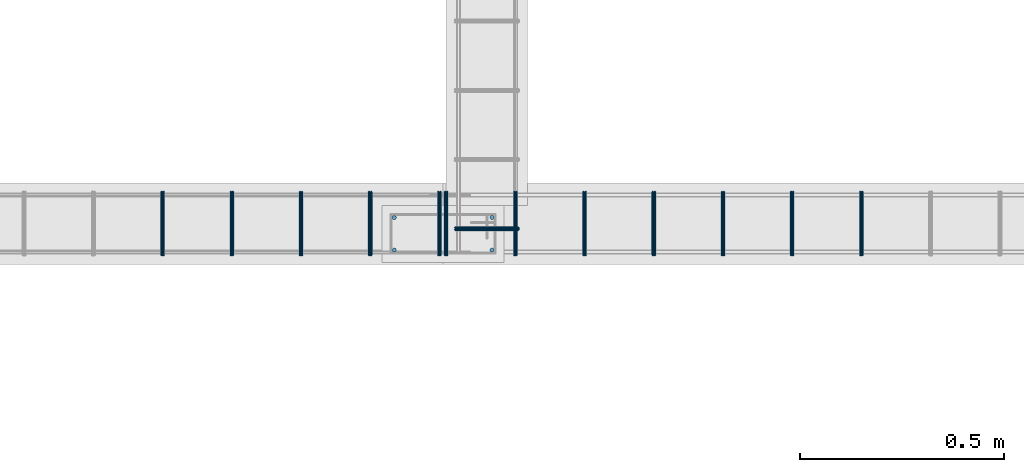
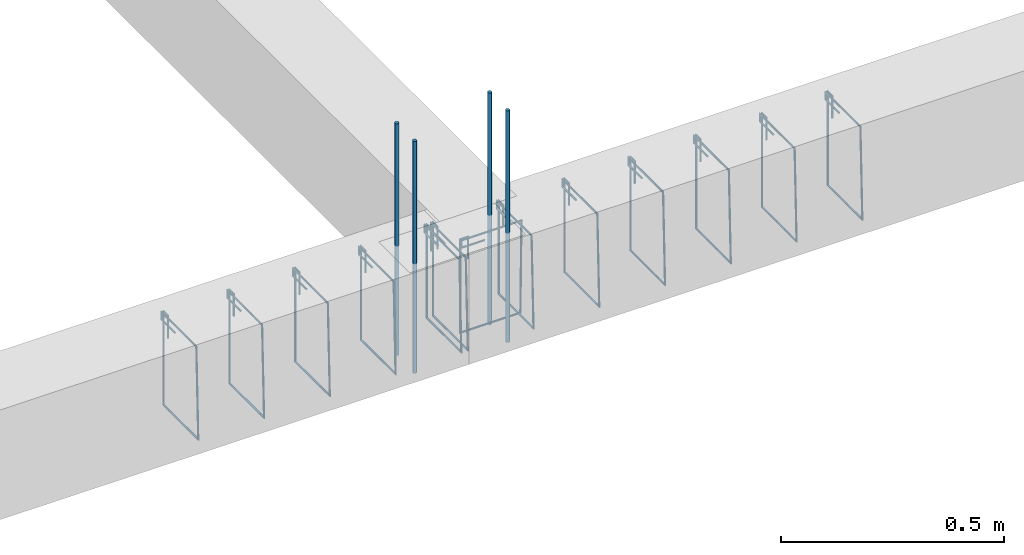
# One storey, part 69 of 150: 17 reinforcing bars.
"""IFC4 building model written with IfcOpenShell, lengths in centimetres."""

from ifc_helpers import new_model, entity, si_unit, derived_unit, frame, origin_with_axes, place, context, project, spatial, source, transform, mapped, element, save


model = new_model("IFC4")

# Units and contexts
model_context = context("Model", 3, precision=1e-05, world=origin_with_axes(), identifier="Body")
ifc_project = project(units=[si_unit("LENGTHUNIT", "METRE", prefix="CENTI"), si_unit("VOLUMEUNIT", "CUBIC_METRE"), si_unit("AREAUNIT", "SQUARE_METRE"), si_unit("POWERUNIT", "WATT"), si_unit("LUMINOUSFLUXUNIT", "LUMEN"), si_unit("ELECTRICCURRENTUNIT", "AMPERE"), si_unit("PRESSUREUNIT", "PASCAL", prefix="KILO"), si_unit("MASSUNIT", "GRAM", prefix="KILO"), si_unit("PLANEANGLEUNIT", "RADIAN"), derived_unit("VOLUMETRICFLOWRATEUNIT", [(si_unit("LENGTHUNIT", "METRE"), 3), (si_unit("TIMEUNIT", "SECOND"), -1)])], contexts=[model_context])

# Site, building, storey
site_placement = place(None, frame((-4000.0, 0.0, 0.0), z_axis=(0.0, 0.0, 1.0), x_axis=(1.0, 0.0, 0.0)))
site = spatial("IfcSite", under=ifc_project, at=site_placement, Name="PADRÃO")
building_placement = place(site_placement, frame((0.0, 0.0, -14.0)))
building = spatial("IfcBuilding", under=site, at=building_placement, Name="CRECHE PRÉ-ESCOLA TIPO 2")
placement = place(building_placement, origin_with_axes())
storey_placement = place(placement, frame((0.0, 0.0, 30.0), z_axis=(0.0, 0.0, 1.0), x_axis=(1.0, 0.0, 0.0)))
storey = spatial("IfcBuildingStorey", under=building, at=storey_placement, Name="VIGA BALDRAME", CompositionType="ELEMENT", Elevation=16.0)

# Reinforcing bars
shared_shape_1 = source(origin_with_axes(), model_context, "Body", "AdvancedSweptSolid", [
    entity("IfcSweptDiskSolid", entity("IfcCompositeCurve", [entity("IfcCompositeCurveSegment", "CONTINUOUS", True, entity("IfcPolyline", [entity("IfcCartesianPoint", [2.0, -6.0, 0.0]), entity("IfcCartesianPoint", [2.0, 0.0, 0.0])])), entity("IfcCompositeCurveSegment", "CONTINUOUS", True, entity("IfcPolyline", [entity("IfcCartesianPoint", [2.0, 0.0, 0.0]), entity("IfcCartesianPoint", [0.0, 0.0, 0.0])])), entity("IfcCompositeCurveSegment", "CONTINUOUS", True, entity("IfcPolyline", [entity("IfcCartesianPoint", [0.0, 0.0, 0.0]), entity("IfcCartesianPoint", [0.0, -25.5, 0.0])])), entity("IfcCompositeCurveSegment", "CONTINUOUS", True, entity("IfcPolyline", [entity("IfcCartesianPoint", [0.0, -25.5, 0.0]), entity("IfcCartesianPoint", [15.5, -25.5, 0.0])])), entity("IfcCompositeCurveSegment", "CONTINUOUS", True, entity("IfcPolyline", [entity("IfcCartesianPoint", [15.5, -25.5, 0.0]), entity("IfcCartesianPoint", [15.5, 0.0, 0.5])])), entity("IfcCompositeCurveSegment", "CONTINUOUS", True, entity("IfcPolyline", [entity("IfcCartesianPoint", [15.5, 0.0, 0.5]), entity("IfcCartesianPoint", [0.0, 0.0, 0.5])])), entity("IfcCompositeCurveSegment", "CONTINUOUS", True, entity("IfcPolyline", [entity("IfcCartesianPoint", [0.0, 0.0, 0.5]), entity("IfcCartesianPoint", [0.0, -2.0, 0.5])])), entity("IfcCompositeCurveSegment", "CONTINUOUS", True, entity("IfcPolyline", [entity("IfcCartesianPoint", [0.0, -2.0, 0.5]), entity("IfcCartesianPoint", [6.0, -2.0, 0.5])]))], False), 0.25),
])
for number, where, z_axis, x_axis, name in (
    (1, (684.345, 3207.77, -2.25), (-1.0, 0.0, 0.0), (0.0, -1.0, 0.0), "V113 - Estribo"),
    (2, (667.345, 3207.77, -2.25), (-1.0, 0.0, 0.0), (0.0, -1.0, 0.0), "V113 - Estribo"),
    (3, (650.345, 3207.77, -2.25), (-1.0, 0.0, 0.0), (0.0, -1.0, 0.0), "V113 - Estribo"),
    (4, (633.345, 3207.77, -2.25), (-1.0, 0.0, 0.0), (0.0, -1.0, 0.0), "V113 - Estribo"),
    (5, (616.345, 3207.77, -2.25), (-1.0, 0.0, 0.0), (0.0, -1.0, 0.0), "V113 - Estribo"),
):
    element("IfcReinforcingBar", number, at=place(storey_placement, frame(where, z_axis=z_axis, x_axis=x_axis)), inside=storey, Name=name, BarLength=0.0, CrossSectionArea=1.9634954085e-05, NominalDiameter=0.5, PredefinedType="MAIN", context=model_context, shape_type="MappedRepresentation", body=[
        mapped(shared_shape_1, transform((0.0, 0.0, 0.0), scale=1.0)),
    ])
shared_shape_2 = source(origin_with_axes(), model_context, "Body", "AdvancedSweptSolid", [
    entity("IfcSweptDiskSolid", entity("IfcCompositeCurve", [entity("IfcCompositeCurveSegment", "CONTINUOUS", True, entity("IfcPolyline", [entity("IfcCartesianPoint", [2.0, -6.0, 0.0]), entity("IfcCartesianPoint", [2.0, 0.0, 0.0])])), entity("IfcCompositeCurveSegment", "CONTINUOUS", True, entity("IfcPolyline", [entity("IfcCartesianPoint", [2.0, 0.0, 0.0]), entity("IfcCartesianPoint", [0.0, 0.0, 0.0])])), entity("IfcCompositeCurveSegment", "CONTINUOUS", True, entity("IfcPolyline", [entity("IfcCartesianPoint", [0.0, 0.0, 0.0]), entity("IfcCartesianPoint", [0.0, -25.5, 0.0])])), entity("IfcCompositeCurveSegment", "CONTINUOUS", True, entity("IfcPolyline", [entity("IfcCartesianPoint", [0.0, -25.5, 0.0]), entity("IfcCartesianPoint", [15.5, -25.5, 0.0])])), entity("IfcCompositeCurveSegment", "CONTINUOUS", True, entity("IfcPolyline", [entity("IfcCartesianPoint", [15.5, -25.5, 0.0]), entity("IfcCartesianPoint", [15.5, 0.0, 0.5])])), entity("IfcCompositeCurveSegment", "CONTINUOUS", True, entity("IfcPolyline", [entity("IfcCartesianPoint", [15.5, 0.0, 0.5]), entity("IfcCartesianPoint", [0.0, 0.0, 0.5])])), entity("IfcCompositeCurveSegment", "CONTINUOUS", True, entity("IfcPolyline", [entity("IfcCartesianPoint", [0.0, 0.0, 0.5]), entity("IfcCartesianPoint", [0.0, -2.0, 0.5])])), entity("IfcCompositeCurveSegment", "CONTINUOUS", True, entity("IfcPolyline", [entity("IfcCartesianPoint", [0.0, -2.0, 0.5]), entity("IfcCartesianPoint", [6.0, -2.0, 0.5])]))], False), 0.25),
])
for number, where, z_axis, x_axis, name in (
    (6, (788.0, 3207.77, -2.25), (-1.0, 0.0, 0.0), (0.0, -1.0, 0.0), "V113 - Estribo"),
    (7, (771.0, 3207.77, -2.25), (-1.0, 0.0, 0.0), (0.0, -1.0, 0.0), "V113 - Estribo"),
    (8, (754.0, 3207.77, -2.25), (-1.0, 0.0, 0.0), (0.0, -1.0, 0.0), "V113 - Estribo"),
    (9, (737.0, 3207.77, -2.25), (-1.0, 0.0, 0.0), (0.0, -1.0, 0.0), "V113 - Estribo"),
    (10, (720.0, 3207.77, -2.25), (-1.0, 0.0, 0.0), (0.0, -1.0, 0.0), "V113 - Estribo"),
    (11, (703.0, 3207.77, -2.25), (-1.0, 0.0, 0.0), (0.0, -1.0, 0.0), "V113 - Estribo"),
    (12, (686.0, 3207.77, -2.25), (-1.0, 0.0, 0.0), (0.0, -1.0, 0.0), "V113 - Estribo"),
):
    element("IfcReinforcingBar", number, at=place(storey_placement, frame(where, z_axis=z_axis, x_axis=x_axis)), inside=storey, Name=name, BarLength=0.0, CrossSectionArea=1.9634954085e-05, NominalDiameter=0.5, PredefinedType="MAIN", context=model_context, shape_type="MappedRepresentation", body=[
        mapped(shared_shape_2, transform((0.0, 0.0, 0.0), scale=1.0)),
    ])
shared_shape_3 = source(origin_with_axes(), model_context, "Body", "AdvancedSweptSolid", [
    entity("IfcSweptDiskSolid", entity("IfcCompositeCurve", [entity("IfcCompositeCurveSegment", "CONTINUOUS", True, entity("IfcPolyline", [entity("IfcCartesianPoint", [2.0, -6.0, 0.0]), entity("IfcCartesianPoint", [2.0, 0.0, 0.0])])), entity("IfcCompositeCurveSegment", "CONTINUOUS", True, entity("IfcPolyline", [entity("IfcCartesianPoint", [2.0, 0.0, 0.0]), entity("IfcCartesianPoint", [0.0, 0.0, 0.0])])), entity("IfcCompositeCurveSegment", "CONTINUOUS", True, entity("IfcPolyline", [entity("IfcCartesianPoint", [0.0, 0.0, 0.0]), entity("IfcCartesianPoint", [0.0, -25.5, 0.0])])), entity("IfcCompositeCurveSegment", "CONTINUOUS", True, entity("IfcPolyline", [entity("IfcCartesianPoint", [0.0, -25.5, 0.0]), entity("IfcCartesianPoint", [15.5, -25.5, 0.0])])), entity("IfcCompositeCurveSegment", "CONTINUOUS", True, entity("IfcPolyline", [entity("IfcCartesianPoint", [15.5, -25.5, 0.0]), entity("IfcCartesianPoint", [15.5, 0.0, 0.5])])), entity("IfcCompositeCurveSegment", "CONTINUOUS", True, entity("IfcPolyline", [entity("IfcCartesianPoint", [15.5, 0.0, 0.5]), entity("IfcCartesianPoint", [0.0, 0.0, 0.5])])), entity("IfcCompositeCurveSegment", "CONTINUOUS", True, entity("IfcPolyline", [entity("IfcCartesianPoint", [0.0, 0.0, 0.5]), entity("IfcCartesianPoint", [0.0, -2.0, 0.5])])), entity("IfcCompositeCurveSegment", "CONTINUOUS", True, entity("IfcPolyline", [entity("IfcCartesianPoint", [0.0, -2.0, 0.5]), entity("IfcCartesianPoint", [6.0, -2.0, 0.5])]))], False), 0.25),
])
reinforcing_bar_placement = place(storey_placement, frame((687.98, 3198.99, -2.25), z_axis=(0.0, -1.0, 0.0), x_axis=(1.0, 0.0, 0.0)))
element("IfcReinforcingBar", 13, at=reinforcing_bar_placement, inside=storey, Name="V176 - Estribo", BarLength=0.0, CrossSectionArea=1.9634954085e-05, NominalDiameter=0.5, PredefinedType="MAIN", context=model_context, shape_type="MappedRepresentation", body=[
    mapped(shared_shape_3, transform((0.0, 0.0, 0.0), scale=1.0)),
])
for number, where, z_axis, x_axis, name in (
    (14, (673.0, 3201.49, 33.3573001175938), (0.0, 0.0, 1.0), (1.0, 0.0, 0.0), "P49 - Longitudinal"),
    (15, (673.0, 3193.49, 33.3573001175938), (0.0, 0.0, 1.0), (1.0, 0.0, 0.0), "P49 - Longitudinal"),
    (16, (697.0, 3193.49, 33.3573001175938), (0.0, 0.0, 1.0), (1.0, 0.0, 0.0), "P49 - Longitudinal"),
    (17, (697.0, 3201.49, 33.3573001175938), (0.0, 0.0, 1.0), (1.0, 0.0, 0.0), "P49 - Longitudinal"),
):
    element("IfcReinforcingBar", number, at=place(storey_placement, frame(where, z_axis=z_axis, x_axis=x_axis)), inside=storey, Name=name, BarLength=0.0, CrossSectionArea=7.853981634e-05, NominalDiameter=1.0, PredefinedType="MAIN", context=model_context, shape_type="AdvancedSweptSolid", body=[
        entity("IfcSweptDiskSolid", entity("IfcCompositeCurve", [entity("IfcCompositeCurveSegment", "CONTINUOUS", True, entity("IfcPolyline", [entity("IfcCartesianPoint", [0.0, 0.0, -63.3573001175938]), entity("IfcCartesianPoint", [0.0, 0.0, 0.0])]))], False), 0.5),
    ])

save(model, "model.ifc")
